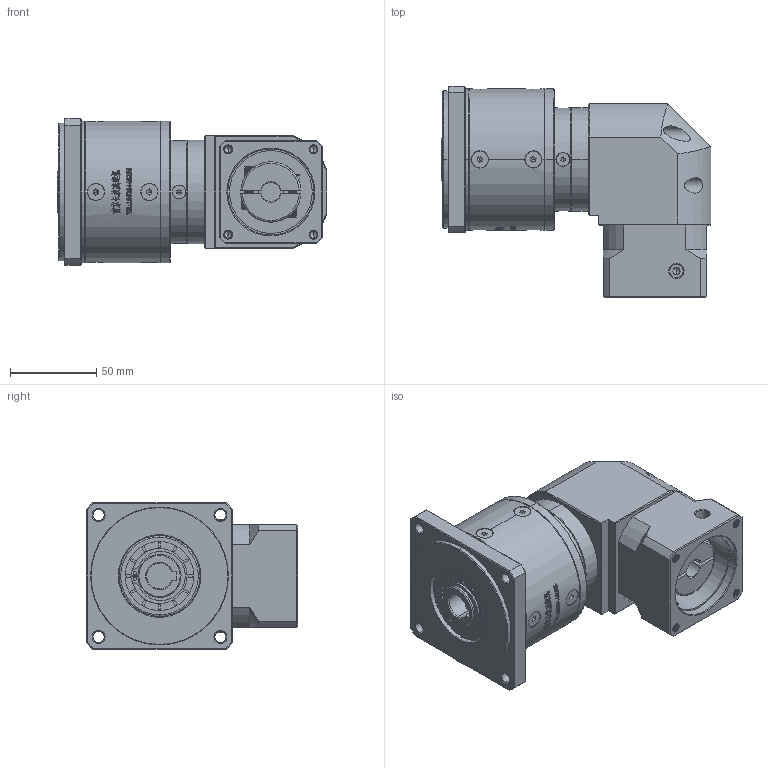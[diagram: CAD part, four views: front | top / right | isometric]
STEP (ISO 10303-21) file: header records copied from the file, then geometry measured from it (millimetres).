
FILE_DESCRIPTION (( 'STEP AP214' ), '1' );
FILE_NAME ('ZFR80-K15-L2-11-50-70-M5.step', '2022-05-08T14:57:56', ( '' ), ( 'Microsoft' ), 'SwSTEP 2.0', 'SolidWorks 2016', '' );
FILE_SCHEMA (( 'AUTOMOTIVE_DESIGN' ));
Length unit declared in the file: millimetre
Products named in the file (1): ZFR80-K15-L2-11-50-70-M5
Bounding box: 156.5 x 122.7 x 85 mm (x, y, z)
Volume: 767806.4 mm3; surface area: 101416.3 mm2
Topology: 17 solids, 18 shells, 3028 faces, 8086 edges, 5214 vertices
Faces by surface type: plane 1594, bspline 598, cylinder 441, cone 375, torus 20
Entity records: 159523 total; most frequent: CARTESIAN_POINT 55799, ORIENTED_EDGE 16084, DIRECTION 12301, EDGE_CURVE 8042, VERTEX_POINT 5214, LINE 4945, VECTOR 4945, AXIS2_PLACEMENT_3D 3678
